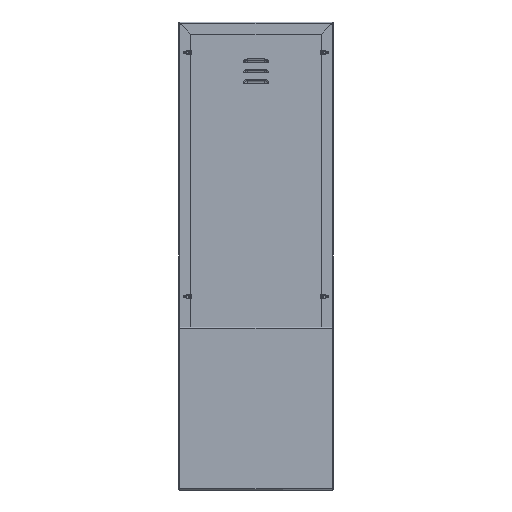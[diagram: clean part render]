
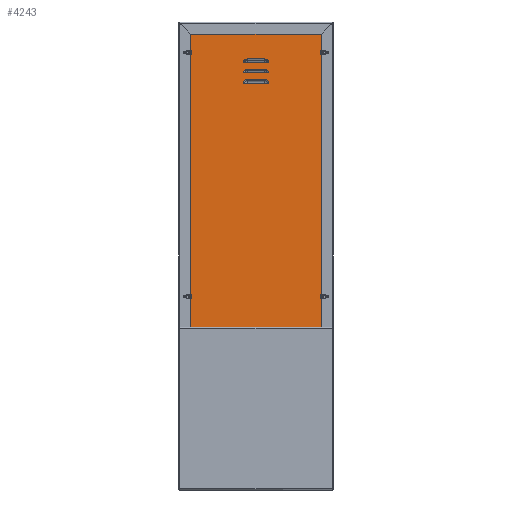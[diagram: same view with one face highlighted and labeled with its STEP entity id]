
A CAD part, front view. The second image highlights one B-rep face of the part: STEP entity #4243.
In plain terms, the highlighted planar face has unit normal (0, -1, 0).
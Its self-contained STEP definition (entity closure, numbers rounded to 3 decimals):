
#281=LINE('',#6457,#615);
#289=LINE('',#6502,#623);
#291=LINE('',#6529,#625);
#299=LINE('',#6574,#633);
#300=LINE('',#6597,#634);
#309=LINE('',#6648,#643);
#310=LINE('',#6669,#644);
#319=LINE('',#6720,#653);
#332=LINE('',#6771,#666);
#333=LINE('',#6776,#667);
#334=LINE('',#6779,#668);
#335=LINE('',#6782,#669);
#336=LINE('',#6784,#670);
#337=LINE('',#6786,#671);
#338=LINE('',#6790,#672);
#339=LINE('',#6794,#673);
#615=VECTOR('',#5157,1000.);
#623=VECTOR('',#5205,1000.);
#625=VECTOR('',#5247,1000.);
#633=VECTOR('',#5295,1000.);
#634=VECTOR('',#5334,1000.);
#643=VECTOR('',#5387,1000.);
#644=VECTOR('',#5424,1000.);
#653=VECTOR('',#5477,1000.);
#666=VECTOR('',#5534,1000.);
#667=VECTOR('',#5537,1000.);
#668=VECTOR('',#5540,1000.);
#669=VECTOR('',#5541,1000.);
#670=VECTOR('',#5542,1000.);
#671=VECTOR('',#5543,1000.);
#672=VECTOR('',#5546,1000.);
#673=VECTOR('',#5549,1000.);
#1236=ORIENTED_EDGE('',*,*,#2214,.T.);
#1237=ORIENTED_EDGE('',*,*,#2219,.T.);
#1238=ORIENTED_EDGE('',*,*,#2191,.T.);
#1239=ORIENTED_EDGE('',*,*,#2223,.F.);
#1240=ORIENTED_EDGE('',*,*,#2250,.T.);
#1241=ORIENTED_EDGE('',*,*,#2255,.T.);
#1242=ORIENTED_EDGE('',*,*,#2227,.T.);
#1243=ORIENTED_EDGE('',*,*,#2259,.F.);
#1244=ORIENTED_EDGE('',*,*,#2348,.T.);
#1245=ORIENTED_EDGE('',*,*,#2349,.T.);
#1246=ORIENTED_EDGE('',*,*,#2350,.T.);
#1247=ORIENTED_EDGE('',*,*,#2351,.F.);
#1248=ORIENTED_EDGE('',*,*,#2291,.F.);
#1249=ORIENTED_EDGE('',*,*,#2287,.F.);
#1250=ORIENTED_EDGE('',*,*,#2295,.T.);
#1251=ORIENTED_EDGE('',*,*,#2261,.F.);
#1252=ORIENTED_EDGE('',*,*,#2327,.F.);
#1253=ORIENTED_EDGE('',*,*,#2323,.F.);
#1254=ORIENTED_EDGE('',*,*,#2331,.T.);
#1255=ORIENTED_EDGE('',*,*,#2297,.F.);
#1256=ORIENTED_EDGE('',*,*,#2352,.F.);
#1257=ORIENTED_EDGE('',*,*,#2353,.F.);
#1258=ORIENTED_EDGE('',*,*,#2354,.F.);
#1259=ORIENTED_EDGE('',*,*,#2355,.T.);
#1260=ORIENTED_EDGE('',*,*,#2356,.F.);
#1261=ORIENTED_EDGE('',*,*,#2357,.F.);
#1262=ORIENTED_EDGE('',*,*,#2358,.T.);
#1263=ORIENTED_EDGE('',*,*,#2359,.F.);
#2191=EDGE_CURVE('',#2809,#2811,#281,.T.);
#2214=EDGE_CURVE('',#2829,#2828,#289,.T.);
#2219=EDGE_CURVE('',#2828,#2809,#3197,.T.);
#2223=EDGE_CURVE('',#2829,#2811,#3201,.T.);
#2227=EDGE_CURVE('',#2831,#2833,#291,.T.);
#2250=EDGE_CURVE('',#2851,#2850,#299,.T.);
#2255=EDGE_CURVE('',#2850,#2831,#3223,.T.);
#2259=EDGE_CURVE('',#2851,#2833,#3227,.T.);
#2261=EDGE_CURVE('',#2853,#2854,#300,.T.);
#2287=EDGE_CURVE('',#2873,#2872,#309,.T.);
#2291=EDGE_CURVE('',#2872,#2853,#3249,.T.);
#2295=EDGE_CURVE('',#2873,#2854,#3253,.T.);
#2297=EDGE_CURVE('',#2875,#2876,#310,.T.);
#2323=EDGE_CURVE('',#2895,#2894,#319,.T.);
#2327=EDGE_CURVE('',#2894,#2875,#3275,.T.);
#2331=EDGE_CURVE('',#2895,#2876,#3279,.T.);
#2348=EDGE_CURVE('',#2912,#2913,#332,.T.);
#2349=EDGE_CURVE('',#2913,#2914,#3284,.T.);
#2350=EDGE_CURVE('',#2914,#2915,#333,.T.);
#2351=EDGE_CURVE('',#2912,#2915,#3285,.T.);
#2352=EDGE_CURVE('',#2916,#2917,#334,.T.);
#2353=EDGE_CURVE('',#2918,#2916,#335,.T.);
#2354=EDGE_CURVE('',#2919,#2918,#336,.T.);
#2355=EDGE_CURVE('',#2919,#2917,#337,.T.);
#2356=EDGE_CURVE('',#2920,#2921,#3286,.T.);
#2357=EDGE_CURVE('',#2922,#2920,#338,.T.);
#2358=EDGE_CURVE('',#2922,#2923,#3287,.T.);
#2359=EDGE_CURVE('',#2921,#2923,#339,.T.);
#2809=VERTEX_POINT('',#6452);
#2811=VERTEX_POINT('',#6456);
#2828=VERTEX_POINT('',#6501);
#2829=VERTEX_POINT('',#6503);
#2831=VERTEX_POINT('',#6524);
#2833=VERTEX_POINT('',#6528);
#2850=VERTEX_POINT('',#6573);
#2851=VERTEX_POINT('',#6575);
#2853=VERTEX_POINT('',#6596);
#2854=VERTEX_POINT('',#6598);
#2872=VERTEX_POINT('',#6645);
#2873=VERTEX_POINT('',#6647);
#2875=VERTEX_POINT('',#6668);
#2876=VERTEX_POINT('',#6670);
#2894=VERTEX_POINT('',#6717);
#2895=VERTEX_POINT('',#6719);
#2912=VERTEX_POINT('',#6772);
#2913=VERTEX_POINT('',#6773);
#2914=VERTEX_POINT('',#6775);
#2915=VERTEX_POINT('',#6777);
#2916=VERTEX_POINT('',#6780);
#2917=VERTEX_POINT('',#6781);
#2918=VERTEX_POINT('',#6783);
#2919=VERTEX_POINT('',#6785);
#2920=VERTEX_POINT('',#6788);
#2921=VERTEX_POINT('',#6789);
#2922=VERTEX_POINT('',#6791);
#2923=VERTEX_POINT('',#6793);
#3197=CIRCLE('',#4697,9.165);
#3201=CIRCLE('',#4705,9.165);
#3223=CIRCLE('',#4737,9.165);
#3227=CIRCLE('',#4745,9.165);
#3249=CIRCLE('',#4777,9.165);
#3253=CIRCLE('',#4785,9.165);
#3275=CIRCLE('',#4817,9.165);
#3279=CIRCLE('',#4825,9.165);
#3284=CIRCLE('',#4832,9.165);
#3285=CIRCLE('',#4833,9.165);
#3286=CIRCLE('',#4834,9.165);
#3287=CIRCLE('',#4835,9.165);
#3455=EDGE_LOOP('',(#1236,#1237,#1238,#1239));
#3456=EDGE_LOOP('',(#1240,#1241,#1242,#1243));
#3457=EDGE_LOOP('',(#1244,#1245,#1246,#1247));
#3458=EDGE_LOOP('',(#1248,#1249,#1250,#1251));
#3459=EDGE_LOOP('',(#1252,#1253,#1254,#1255));
#3460=EDGE_LOOP('',(#1256,#1257,#1258,#1259));
#3461=EDGE_LOOP('',(#1260,#1261,#1262,#1263));
#3793=FACE_BOUND('',#3455,.T.);
#3794=FACE_BOUND('',#3456,.T.);
#3795=FACE_BOUND('',#3457,.T.);
#3796=FACE_BOUND('',#3458,.T.);
#3797=FACE_BOUND('',#3459,.T.);
#3798=FACE_BOUND('',#3460,.T.);
#3799=FACE_BOUND('',#3461,.T.);
#4077=PLANE('',#4831);
#4243=ADVANCED_FACE('',(#3793,#3794,#3795,#3796,#3797,#3798,#3799),#4077,
 .F.);
#4697=AXIS2_PLACEMENT_3D('',#6512,#5222,#5223);
#4705=AXIS2_PLACEMENT_3D('',#6520,#5238,#5239);
#4737=AXIS2_PLACEMENT_3D('',#6584,#5312,#5313);
#4745=AXIS2_PLACEMENT_3D('',#6592,#5328,#5329);
#4777=AXIS2_PLACEMENT_3D('',#6656,#5402,#5403);
#4785=AXIS2_PLACEMENT_3D('',#6664,#5418,#5419);
#4817=AXIS2_PLACEMENT_3D('',#6728,#5492,#5493);
#4825=AXIS2_PLACEMENT_3D('',#6736,#5508,#5509);
#4831=AXIS2_PLACEMENT_3D('',#6770,#5532,#5533);
#4832=AXIS2_PLACEMENT_3D('',#6774,#5535,#5536);
#4833=AXIS2_PLACEMENT_3D('',#6778,#5538,#5539);
#4834=AXIS2_PLACEMENT_3D('',#6787,#5544,#5545);
#4835=AXIS2_PLACEMENT_3D('',#6792,#5547,#5548);
#5157=DIRECTION('',(-1.,0.,0.));
#5205=DIRECTION('',(1.,0.,0.));
#5222=DIRECTION('',(0.,1.,0.));
#5223=DIRECTION('',(0.,0.,1.));
#5238=DIRECTION('',(0.,-1.,0.));
#5239=DIRECTION('',(0.,0.,1.));
#5247=DIRECTION('',(-1.,0.,0.));
#5295=DIRECTION('',(1.,0.,0.));
#5312=DIRECTION('',(0.,1.,0.));
#5313=DIRECTION('',(0.,0.,1.));
#5328=DIRECTION('',(0.,-1.,0.));
#5329=DIRECTION('',(0.,0.,1.));
#5334=DIRECTION('',(1.,0.,0.));
#5387=DIRECTION('',(-1.,0.,0.));
#5402=DIRECTION('',(0.,-1.,0.));
#5403=DIRECTION('',(0.,0.,-1.));
#5418=DIRECTION('',(0.,1.,0.));
#5419=DIRECTION('',(0.,0.,-1.));
#5424=DIRECTION('',(1.,0.,0.));
#5477=DIRECTION('',(-1.,0.,0.));
#5492=DIRECTION('',(0.,-1.,0.));
#5493=DIRECTION('',(0.,0.,-1.));
#5508=DIRECTION('',(0.,1.,0.));
#5509=DIRECTION('',(0.,0.,-1.));
#5532=DIRECTION('',(0.,1.,0.));
#5533=DIRECTION('',(0.,0.,1.));
#5534=DIRECTION('',(1.,0.,0.));
#5535=DIRECTION('',(0.,1.,0.));
#5536=DIRECTION('',(0.,0.,1.));
#5537=DIRECTION('',(-1.,0.,0.));
#5538=DIRECTION('',(0.,-1.,0.));
#5539=DIRECTION('',(0.,0.,1.));
#5540=DIRECTION('',(1.,0.,0.));
#5541=DIRECTION('',(0.,0.,1.));
#5542=DIRECTION('',(-1.,0.,0.));
#5543=DIRECTION('',(0.,0.,1.));
#5544=DIRECTION('',(0.,-1.,0.));
#5545=DIRECTION('',(0.,0.,-1.));
#5546=DIRECTION('',(-1.,0.,0.));
#5547=DIRECTION('',(0.,1.,0.));
#5548=DIRECTION('',(0.,0.,-1.));
#5549=DIRECTION('',(1.,0.,0.));
#6452=CARTESIAN_POINT('',(31.165,-1.5,250.));
#6456=CARTESIAN_POINT('',(-31.165,-1.5,250.));
#6457=CARTESIAN_POINT('',(31.165,-1.5,250.));
#6501=CARTESIAN_POINT('',(22.,-1.5,259.165));
#6502=CARTESIAN_POINT('',(-22.,-1.5,259.165));
#6503=CARTESIAN_POINT('',(-22.,-1.5,259.165));
#6512=CARTESIAN_POINT('',(22.,-1.5,250.));
#6520=CARTESIAN_POINT('',(-22.,-1.5,250.));
#6524=CARTESIAN_POINT('',(31.165,-1.5,275.));
#6528=CARTESIAN_POINT('',(-31.165,-1.5,275.));
#6529=CARTESIAN_POINT('',(31.165,-1.5,275.));
#6573=CARTESIAN_POINT('',(22.,-1.5,284.165));
#6574=CARTESIAN_POINT('',(-22.,-1.5,284.165));
#6575=CARTESIAN_POINT('',(-22.,-1.5,284.165));
#6584=CARTESIAN_POINT('',(22.,-1.5,275.));
#6592=CARTESIAN_POINT('',(-22.,-1.5,275.));
#6596=CARTESIAN_POINT('',(-31.165,-1.5,1000.));
#6597=CARTESIAN_POINT('',(-31.165,-1.5,1000.));
#6598=CARTESIAN_POINT('',(31.165,-1.5,1000.));
#6645=CARTESIAN_POINT('',(-22.,-1.5,1009.165));
#6647=CARTESIAN_POINT('',(22.,-1.5,1009.165));
#6648=CARTESIAN_POINT('',(22.,-1.5,1009.165));
#6656=CARTESIAN_POINT('',(-22.,-1.5,1000.));
#6664=CARTESIAN_POINT('',(22.,-1.5,1000.));
#6668=CARTESIAN_POINT('',(-31.165,-1.5,1025.));
#6669=CARTESIAN_POINT('',(-31.165,-1.5,1025.));
#6670=CARTESIAN_POINT('',(31.165,-1.5,1025.));
#6717=CARTESIAN_POINT('',(-22.,-1.5,1034.165));
#6719=CARTESIAN_POINT('',(22.,-1.5,1034.165));
#6720=CARTESIAN_POINT('',(22.,-1.5,1034.165));
#6728=CARTESIAN_POINT('',(-22.,-1.5,1025.));
#6736=CARTESIAN_POINT('',(22.,-1.5,1025.));
#6770=CARTESIAN_POINT('',(-190.,-1.5,0.));
#6771=CARTESIAN_POINT('',(-22.,-1.5,309.165));
#6772=CARTESIAN_POINT('',(-22.,-1.5,309.165));
#6773=CARTESIAN_POINT('',(22.,-1.5,309.165));
#6774=CARTESIAN_POINT('',(22.,-1.5,300.));
#6775=CARTESIAN_POINT('',(31.165,-1.5,300.));
#6776=CARTESIAN_POINT('',(31.165,-1.5,300.));
#6777=CARTESIAN_POINT('',(-31.165,-1.5,300.));
#6778=CARTESIAN_POINT('',(-22.,-1.5,300.));
#6779=CARTESIAN_POINT('',(-187.,-1.5,1147.));
#6780=CARTESIAN_POINT('',(-187.,-1.5,1147.));
#6781=CARTESIAN_POINT('',(187.,-1.5,1147.));
#6782=CARTESIAN_POINT('',(-187.,-1.5,0.));
#6783=CARTESIAN_POINT('',(-187.,-1.5,3.));
#6784=CARTESIAN_POINT('',(187.,-1.5,3.));
#6785=CARTESIAN_POINT('',(187.,-1.5,3.));
#6786=CARTESIAN_POINT('',(187.,-1.5,0.));
#6787=CARTESIAN_POINT('',(-22.,-1.5,1050.));
#6788=CARTESIAN_POINT('',(-22.,-1.5,1059.165));
#6789=CARTESIAN_POINT('',(-31.165,-1.5,1050.));
#6790=CARTESIAN_POINT('',(22.,-1.5,1059.165));
#6791=CARTESIAN_POINT('',(22.,-1.5,1059.165));
#6792=CARTESIAN_POINT('',(22.,-1.5,1050.));
#6793=CARTESIAN_POINT('',(31.165,-1.5,1050.));
#6794=CARTESIAN_POINT('',(-31.165,-1.5,1050.));
